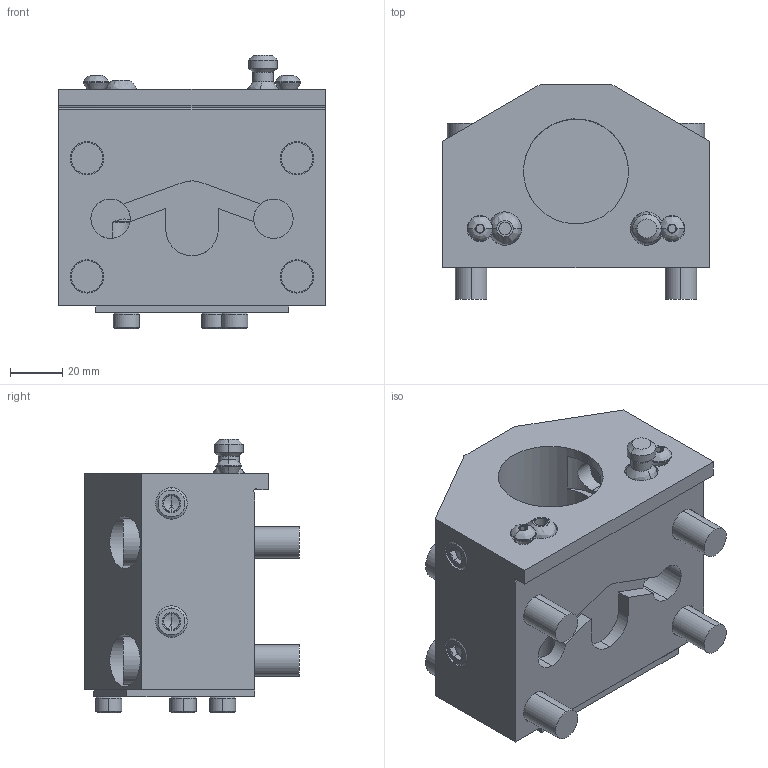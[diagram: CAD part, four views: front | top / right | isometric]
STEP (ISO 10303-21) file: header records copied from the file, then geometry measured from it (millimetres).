
FILE_DESCRIPTION (( 'STEP AP203' ), '1' );
FILE_NAME ('04-0750, BOT20MID-40.STEP', '2022-07-18T22:09:52', ( '' ), ( '' ), 'SwSTEP 2.0', 'SolidWorks 2021', '' );
FILE_SCHEMA (( 'CONFIG_CONTROL_DESIGN' ));
Length unit declared in the file: inch
Products named in the file (1): 04-0750, BOT20MID-40
Bounding box: 101.6 x 81.67 x 104.08 mm (x, y, z)
Surface area: 85581.5 mm2 (no closed solid volume)
Topology: 0 solids, 28 shells, 405 faces, 1069 edges, 692 vertices
Faces by surface type: plane 194, cone 103, cylinder 86, bspline 22
Entity records: 20169 total; most frequent: CARTESIAN_POINT 10646, ORIENTED_EDGE 1952, DIRECTION 1799, EDGE_CURVE 1053, VERTEX_POINT 692, AXIS2_PLACEMENT_3D 661, LINE 477, VECTOR 477
